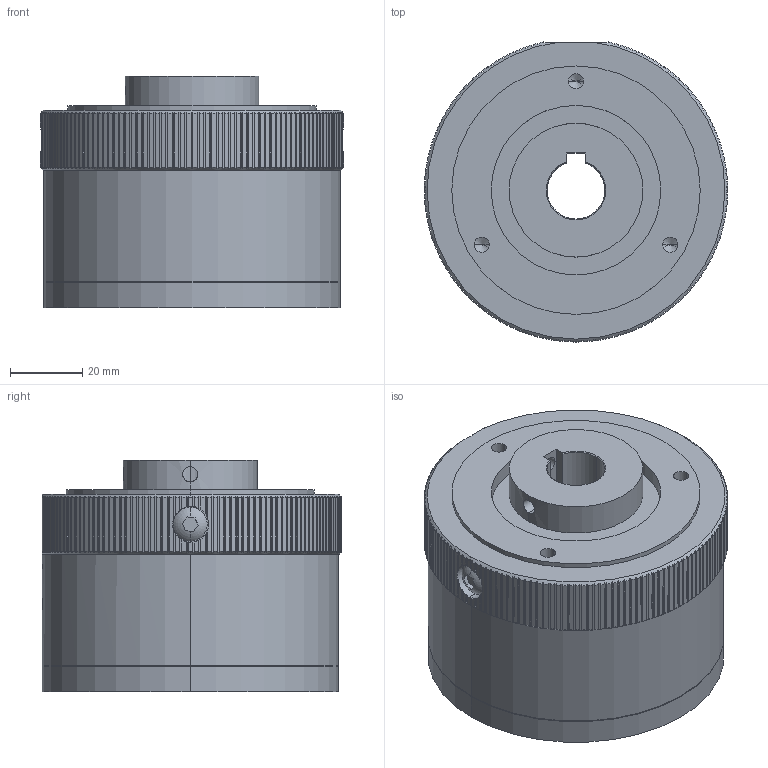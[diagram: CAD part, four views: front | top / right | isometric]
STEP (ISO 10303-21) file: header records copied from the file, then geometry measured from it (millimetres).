
FILE_DESCRIPTION (( 'STEP AP214' ), '1' );
FILE_NAME ('MTL10-16mm CUSTOMER SOLID.STEP', '2015-04-06T14:58:26', ( '' ), ( '' ), 'SwSTEP 2.0', 'SolidWorks 2014', '' );
FILE_SCHEMA (( 'AUTOMOTIVE_DESIGN' ));
Length unit declared in the file: inch
Products named in the file (1): MTL10-16mm CUSTOMER SOLID
Bounding box: 84.07 x 83.1 x 64.01 mm (x, y, z)
Volume: 279864.2 mm3; surface area: 34655.1 mm2
Topology: 1 solids, 1 shells, 853 faces, 2733 edges, 1927 vertices
Faces by surface type: plane 582, cylinder 243, cone 24, torus 4
Entity records: 34828 total; most frequent: CARTESIAN_POINT 12078, ORIENTED_EDGE 5442, DIRECTION 3703, EDGE_CURVE 2721, VERTEX_POINT 1927, AXIS2_PLACEMENT_3D 1354, B_SPLINE_CURVE_WITH_KNOTS 1154, LINE 995
